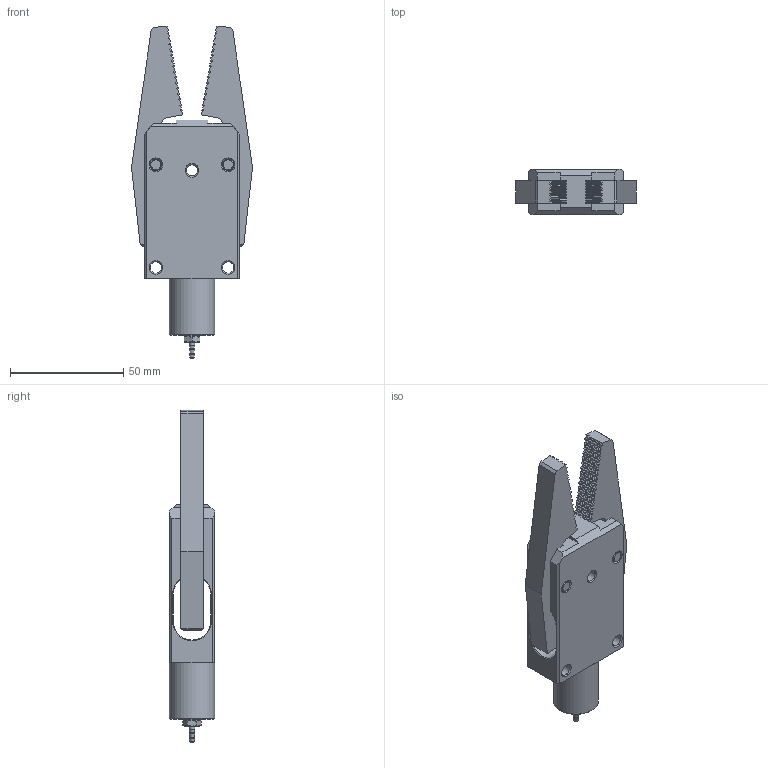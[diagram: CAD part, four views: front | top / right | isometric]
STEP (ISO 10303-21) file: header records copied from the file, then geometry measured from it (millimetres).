
FILE_DESCRIPTION(/* description */ (''),/* implementation_level */ '2;1');
FILE_NAME(/* name */ '_model1.stp',/* time_stamp */ '2023-03-08T10:43:51+08:00',/* author */ (''),/* organization */ (''),/* preprocessor_version */ 'ST-DEVELOPER v16',/* originating_system */ 'SIEMENS PLM Software NX 10.0',/* authorisation */ '');
FILE_SCHEMA (('AUTOMOTIVE_DESIGN { 1 0 10303 214 3 1 1 1 }'));
Length unit declared in the file: millimetre
Products named in the file (1): Admi115498B06igy
Bounding box: 53.49 x 20 x 146.85 mm (x, y, z)
Volume: 63468.7 mm3; surface area: 23524.4 mm2
Topology: 1 solids, 1 shells, 1618 faces, 3507 edges, 1901 vertices
Faces by surface type: plane 1562, cylinder 29, cone 26, torus 1
Full cylindrical faces by diameter (mm): 1 x1, 2.5 x3, 5 x9, 5.16 x2, 7 x1, 20 x1
Entity records: 52567 total; most frequent: CARTESIAN_POINT 7043, ORIENTED_EDGE 6920, DIRECTION 6774, EDGE_CURVE 3460, LINE 3352, VECTOR 3352, VERTEX_POINT 1892, AXIS2_PLACEMENT_3D 1711
